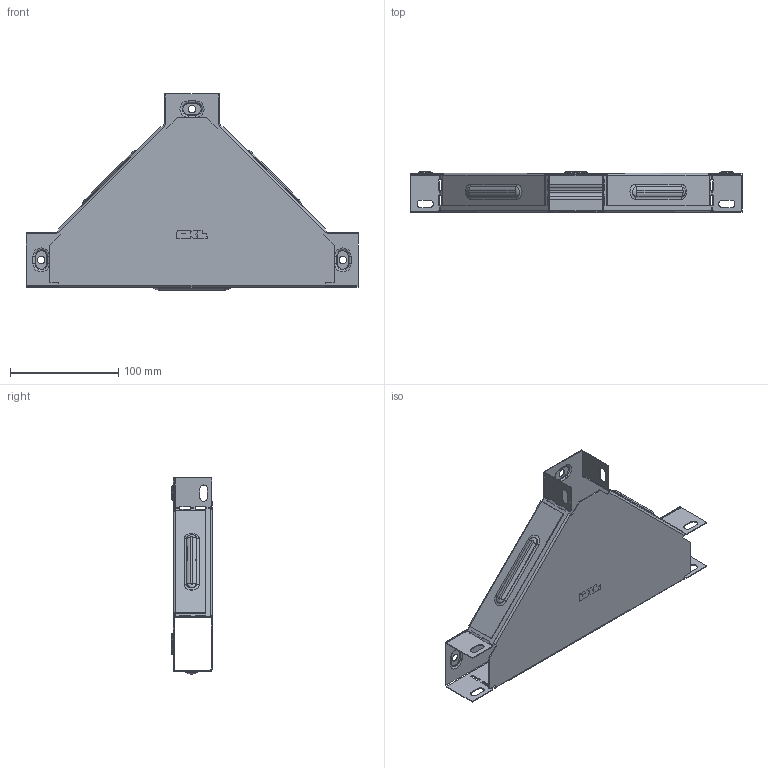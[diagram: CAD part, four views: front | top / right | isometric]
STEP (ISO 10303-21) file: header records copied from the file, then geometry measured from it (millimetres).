
FILE_DESCRIPTION (( 'STEP AP214' ), '1' );
FILE_NAME ('t355008_捘.STEP', '2019-06-10T08:07:29', ( '砐錪賧瘔蠈錪 Windows' ), ( '' ), 'SwSTEP 2.0', 'SolidWorks 2018', '' );
FILE_SCHEMA (( 'AUTOMOTIVE_DESIGN' ));
Length unit declared in the file: millimetre
Products named in the file (1): t355008_捘
Bounding box: 306.4 x 37.4 x 181 mm (x, y, z)
Volume: 78072.9 mm3; surface area: 197521.1 mm2
Topology: 2 solids, 2 shells, 534 faces, 1464 edges, 948 vertices
Faces by surface type: plane 304, cylinder 140, torus 72, bspline 18
Entity records: 17925 total; most frequent: CARTESIAN_POINT 4027, ORIENTED_EDGE 2928, DIRECTION 2850, EDGE_CURVE 1464, VECTOR 1040, LINE 1040, VERTEX_POINT 948, AXIS2_PLACEMENT_3D 905
